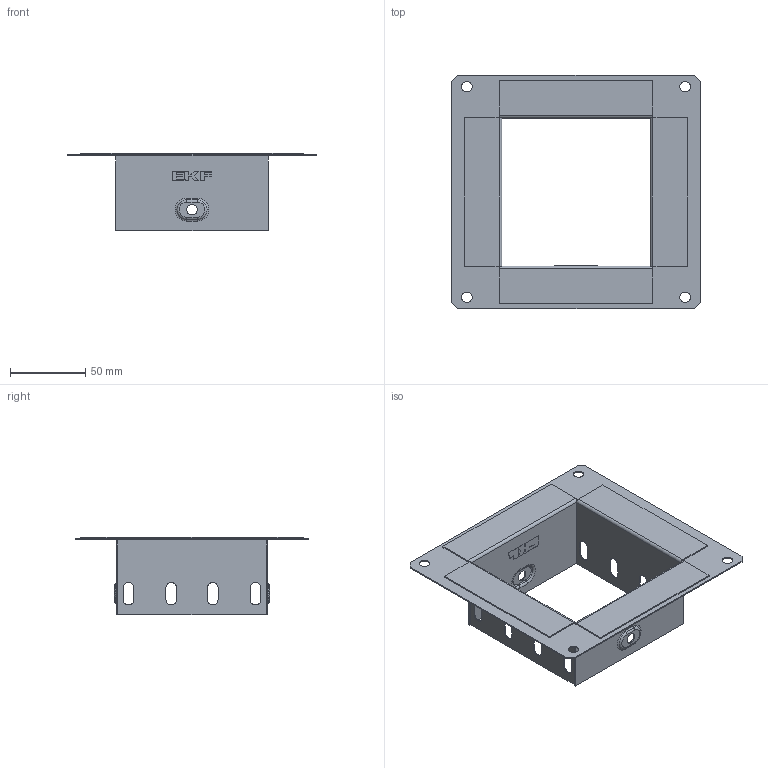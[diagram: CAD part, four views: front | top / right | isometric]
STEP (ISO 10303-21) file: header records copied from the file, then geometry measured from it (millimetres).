
FILE_DESCRIPTION (( 'STEP AP203' ), '1' );
FILE_NAME ('f100100_捘.STEP', '2020-01-23T12:26:46', ( '' ), ( '' ), 'SwSTEP 2.0', 'SolidWorks 2016', '' );
FILE_SCHEMA (( 'CONFIG_CONTROL_DESIGN' ));
Length unit declared in the file: millimetre
Products named in the file (9): f100100_1; f35100_2; f100100_3; f100100_捘
Assembly tree (5 placements, depth 2):
  f100100_1
  f35100_2
  f35100_2
  f100100_3
  f100100_3
Bounding box: 165 x 155 x 51.5 mm (x, y, z)
Volume: 35403.1 mm3; surface area: 90802.6 mm2
Topology: 5 solids, 5 shells, 326 faces, 852 edges, 552 vertices
Faces by surface type: plane 220, cylinder 72, bspline 18, torus 16
Entity records: 6612 total; most frequent: CARTESIAN_POINT 1418, ORIENTED_EDGE 912, DIRECTION 878, EDGE_CURVE 456, LINE 346, VECTOR 346, VERTEX_POINT 296, AXIS2_PLACEMENT_3D 266
